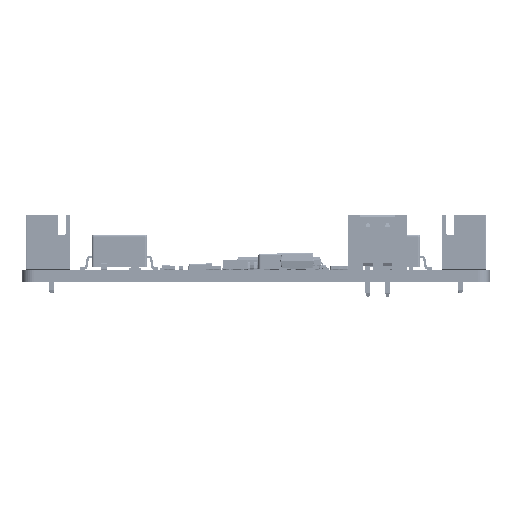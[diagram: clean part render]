
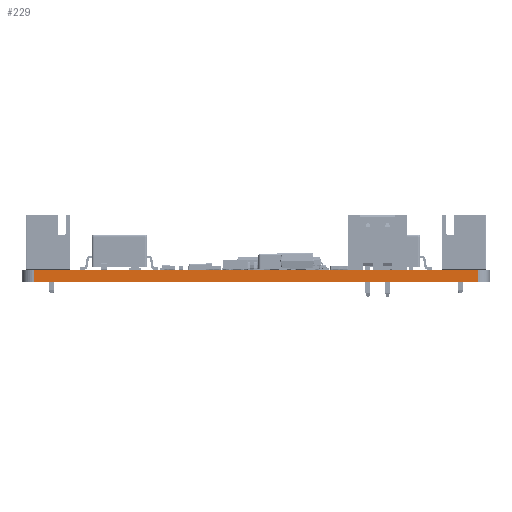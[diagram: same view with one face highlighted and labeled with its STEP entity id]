
A CAD part, front view. The second image highlights one B-rep face of the part: STEP entity #229.
In plain terms, the highlighted planar face has unit normal (0, -1, 0).
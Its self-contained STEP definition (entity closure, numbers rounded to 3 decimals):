
#202 = VERTEX_POINT('',#203);
#203 = CARTESIAN_POINT('',(58.5,0.013,    1.6));
#210 = EDGE_CURVE('',#211,#202,#213,.T.);
#211 = VERTEX_POINT('',#212);
#212 = CARTESIAN_POINT('',(58.5,0.013,0.));
#213 = LINE('',#214,#215);
#214 = CARTESIAN_POINT('',(58.5,0.013,0.));
#215 = VECTOR('',#216,1.);
#216 = DIRECTION('',(0.,0.,1.));
#229 = ADVANCED_FACE('',(#230),#255,.T.);
#230 = FACE_BOUND('',#231,.T.);
#231 = EDGE_LOOP('',(#232,#233,#241,#249));
#232 = ORIENTED_EDGE('',*,*,#210,.T.);
#233 = ORIENTED_EDGE('',*,*,#234,.T.);
#234 = EDGE_CURVE('',#202,#235,#237,.T.);
#235 = VERTEX_POINT('',#236);
#236 = CARTESIAN_POINT('',(1.5,0.013,    1.6));
#237 = LINE('',#238,#239);
#238 = CARTESIAN_POINT('',(58.5,0.013,    1.6));
#239 = VECTOR('',#240,1.);
#240 = DIRECTION('',(-1.,0.,0.));
#241 = ORIENTED_EDGE('',*,*,#242,.F.);
#242 = EDGE_CURVE('',#243,#235,#245,.T.);
#243 = VERTEX_POINT('',#244);
#244 = CARTESIAN_POINT('',(1.5,0.013,0.));
#245 = LINE('',#246,#247);
#246 = CARTESIAN_POINT('',(1.5,0.013,0.));
#247 = VECTOR('',#248,1.);
#248 = DIRECTION('',(0.,0.,1.));
#249 = ORIENTED_EDGE('',*,*,#250,.F.);
#250 = EDGE_CURVE('',#211,#243,#251,.T.);
#251 = LINE('',#252,#253);
#252 = CARTESIAN_POINT('',(58.5,0.013,0.));
#253 = VECTOR('',#254,1.);
#254 = DIRECTION('',(-1.,0.,0.));
#255 = PLANE('',#256);
#256 = AXIS2_PLACEMENT_3D('',#257,#258,#259);
#257 = CARTESIAN_POINT('',(58.5,0.013,0.));
#258 = DIRECTION('',(0.,-1.,0.));
#259 = DIRECTION('',(-1.,0.,0.));
